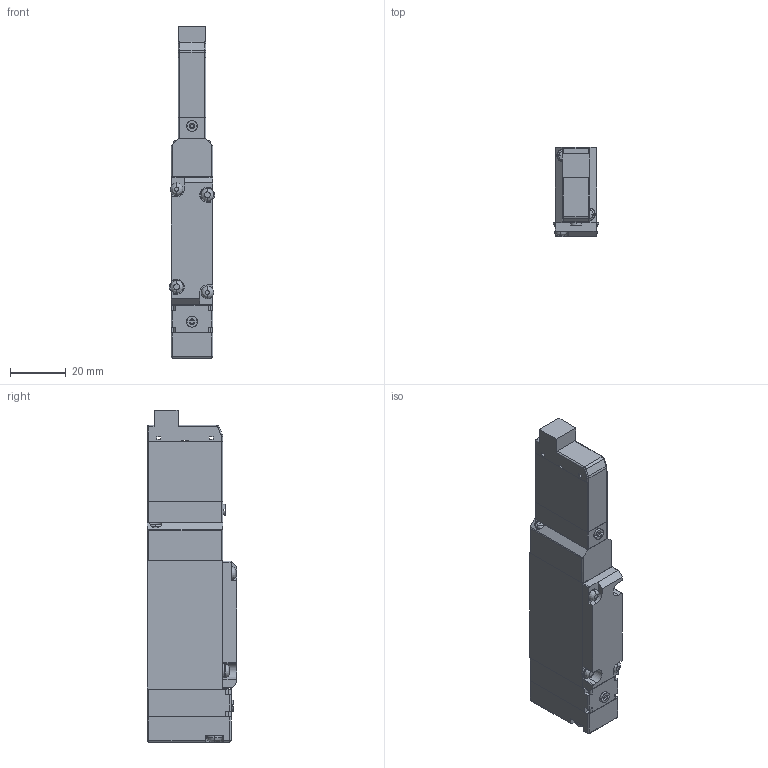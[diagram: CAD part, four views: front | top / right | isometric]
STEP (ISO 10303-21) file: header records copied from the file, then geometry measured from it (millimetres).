
FILE_DESCRIPTION( (''), '2;1');
FILE_NAME ('CVICAD02.3360.F15T2-A1-PN_21671.stp','2021-07-12T19:13:44',(''),(''),'spGate 12.6.6','','');
FILE_SCHEMA (('AUTOMOTIVE_DESIGN'));
Length unit declared in the file: millimetre
Products named in the file (8): Assembly; CVICAD02-prt0; CVICAD02-prt1; CVICAD02-prt2; CVICAD02-prt3; CVICAD02-prt4; CVICAD02-prt5; CVICAD02-prt6
Assembly tree (7 placements, depth 2):
  Assembly
    CVICAD02-prt0
    CVICAD02-prt1
    CVICAD02-prt2
    CVICAD02-prt3
    CVICAD02-prt4
    CVICAD02-prt5
    CVICAD02-prt6
Bounding box: 16.2 x 32 x 119 mm (x, y, z)
Volume: 44591.3 mm3; surface area: 17146.7 mm2
Topology: 7 solids, 7 shells, 309 faces, 792 edges, 505 vertices
Faces by surface type: plane 162, cylinder 114, bspline 28, sphere 5
Entity records: 16168 total; most frequent: CARTESIAN_POINT 2371, ORIENTED_EDGE 1566, DIRECTION 1487, COLOUR_RGB 1099, PRESENTATION_STYLE_ASSIGNMENT 1099, STYLED_ITEM 1099, EDGE_CURVE 783, DRAUGHTING_PRE_DEFINED_CURVE_FONT 783
